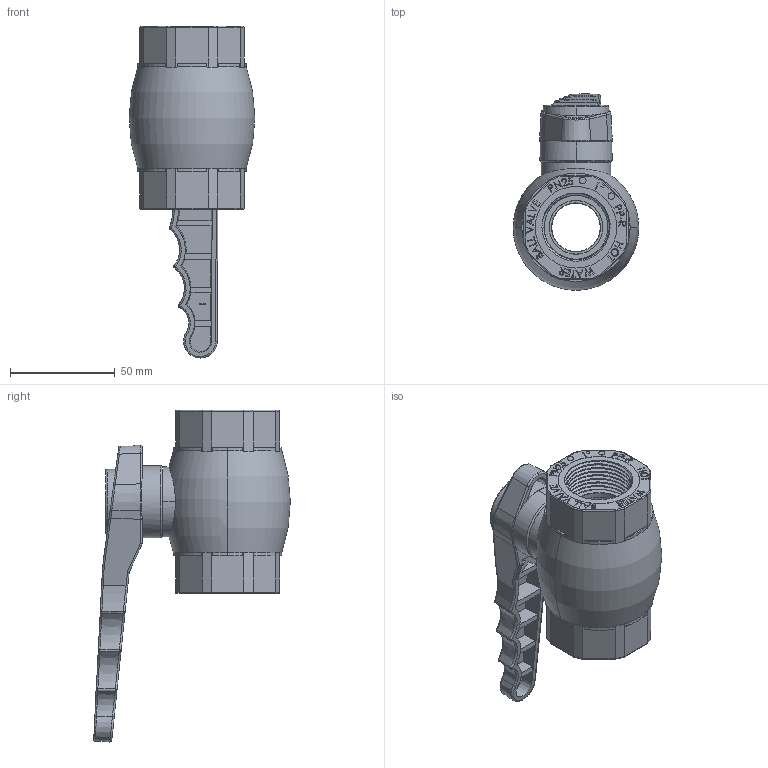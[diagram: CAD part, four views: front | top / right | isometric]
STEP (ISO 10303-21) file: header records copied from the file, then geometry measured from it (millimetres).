
FILE_DESCRIPTION (( 'STEP AP203' ), '1' );
FILE_NAME ('PKG3_ASM.STEP', '2022-08-22T14:17:15', ( '' ), ( '' ), 'SwSTEP 2.0', 'SolidWorks 2021', '' );
FILE_SCHEMA (( 'CONFIG_CONTROL_DESIGN' ));
Length unit declared in the file: millimetre
Products named in the file (9): INPPG1FV1; PKG3_ASM; PPG3_SMALL BODY; PKG3_STEM; PKG03_HANDLE; PPG3_BODY; PKG3_PTFE; PKG3_SMALL BODY ASM; PKG3_BALL
Assembly tree (10 placements, depth 3):
  PKG3_ASM
    PPG3_BODY
    PKG3_SMALL BODY ASM
      PPG3_SMALL BODY
      PKG3_PTFE
    PKG3_PTFE
    PKG3_BALL
    INPPG1FV1  x2
    PKG3_STEM
    PKG03_HANDLE
Bounding box: 60 x 93.89 x 158.58 mm (x, y, z)
Volume: 185959.7 mm3; surface area: 78699.4 mm2
Topology: 9 solids, 9 shells, 1019 faces, 2587 edges, 1679 vertices
Faces by surface type: plane 572, cylinder 281, bspline 96, cone 31, torus 24, sphere 15
Entity records: 37710 total; most frequent: CARTESIAN_POINT 14703, ORIENTED_EDGE 4798, DIRECTION 4236, EDGE_CURVE 2399, VERTEX_POINT 1556, LINE 1436, VECTOR 1436, AXIS2_PLACEMENT_3D 1400
